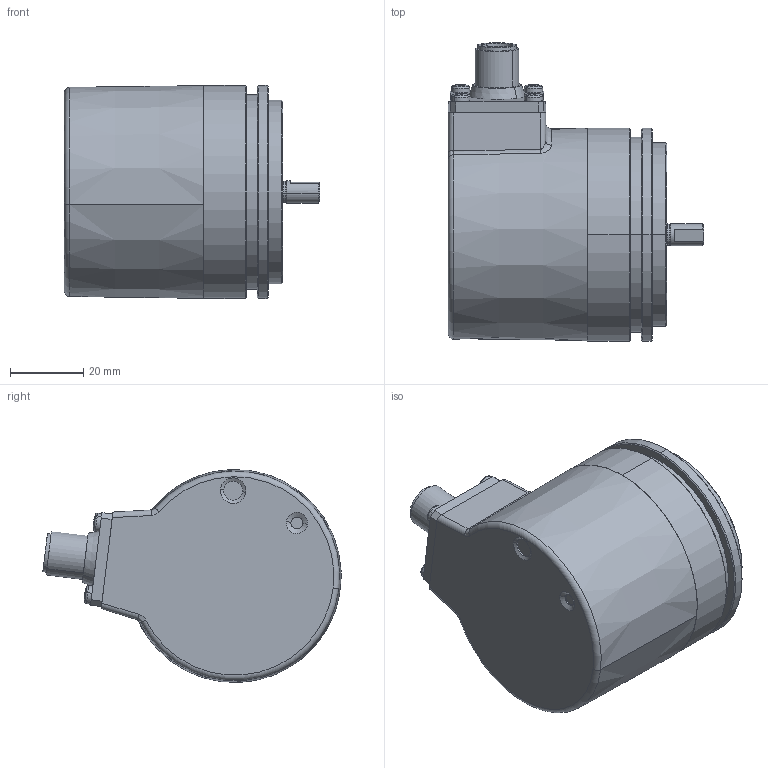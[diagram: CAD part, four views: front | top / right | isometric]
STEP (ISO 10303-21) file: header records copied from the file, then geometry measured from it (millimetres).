
FILE_DESCRIPTION (( 'STEP AP214' ), '1' );
FILE_NAME ('8.F5863.21X6.XXXX.STEP', '2014-05-22T09:11:26', ( 'HeirlerN' ), ( 'Microsoft' ), 'SwSTEP 2.0', 'SolidWorks 2013', '' );
FILE_SCHEMA (( 'AUTOMOTIVE_DESIGN' ));
Length unit declared in the file: millimetre
Products named in the file (1): 8.F5863.21X6.XXXX
Bounding box: 69.5 x 81.25 x 58 mm (x, y, z)
Volume: 79121 mm3; surface area: 44350.1 mm2
Topology: 9 solids, 9 shells, 772 faces, 1897 edges, 1139 vertices
Faces by surface type: cylinder 234, plane 193, cone 175, torus 90, sphere 44, bspline 36
Entity records: 32525 total; most frequent: CARTESIAN_POINT 6244, DIRECTION 3927, ORIENTED_EDGE 3558, EDGE_CURVE 1779, AXIS2_PLACEMENT_3D 1649, VERTEX_POINT 1093, CIRCLE 912, EDGE_LOOP 874
